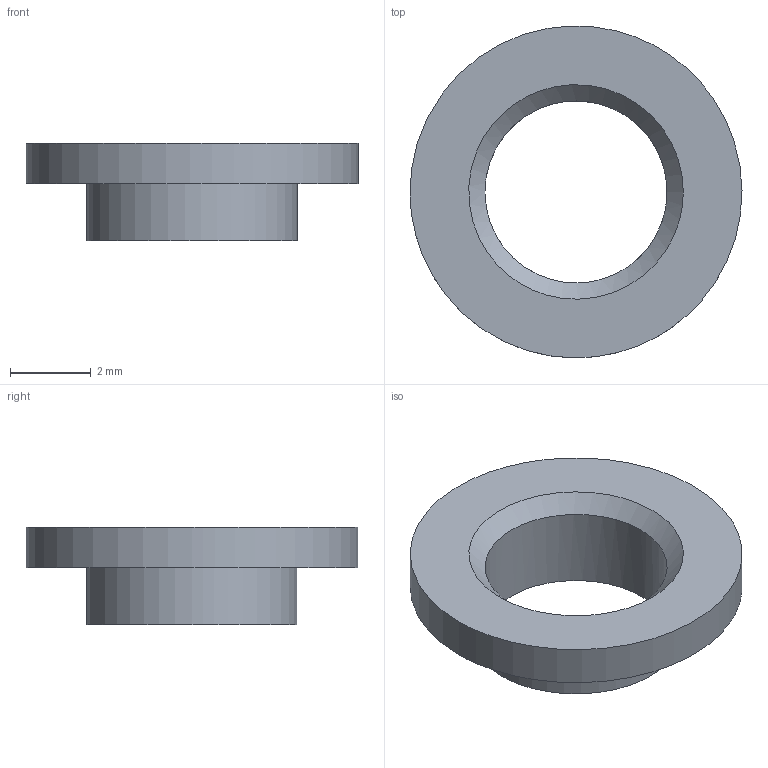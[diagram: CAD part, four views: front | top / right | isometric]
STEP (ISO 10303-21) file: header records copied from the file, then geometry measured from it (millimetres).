
FILE_DESCRIPTION(('FreeCAD Model'),'2;1');
FILE_NAME('Open CASCADE Shape Model','2026-03-20T17:23:02',('Author'),( ''),'Open CASCADE STEP processor 7.8','FreeCAD','Unknown');
FILE_SCHEMA(('AP242_MANAGED_MODEL_BASED_3D_ENGINEERING_MIM_LF. {1 0 10303 442 1 1 4 }'));
Length unit declared in the file: millimetre
Products named in the file (1): 1_transformed
Bounding box: 8.2 x 8.2 x 2.4 mm (x, y, z)
Volume: 43.6 mm3; surface area: 153.5 mm2
Topology: 1 solids, 1 shells, 7 faces, 12 edges, 8 vertices
Faces by surface type: bspline 7
Entity records: 244 total; most frequent: CARTESIAN_POINT 137, ORIENTED_EDGE 24, EDGE_CURVE 12, FACE_BOUND 10, EDGE_LOOP 10, VERTEX_POINT 8, ADVANCED_FACE 7, B_SPLINE_CURVE_WITH_KNOTS 4
